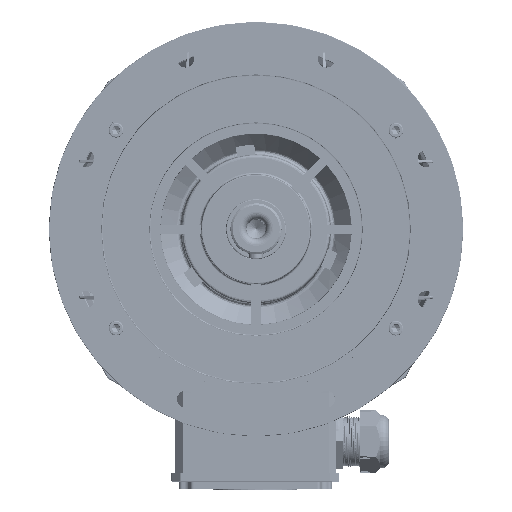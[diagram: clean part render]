
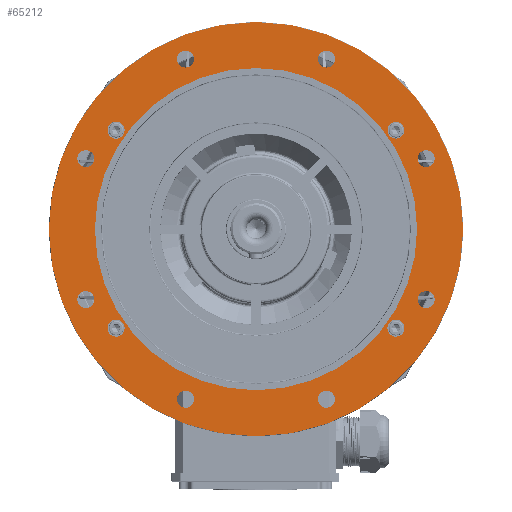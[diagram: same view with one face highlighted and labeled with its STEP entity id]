
A CAD part, top view. The second image highlights one B-rep face of the part: STEP entity #65212.
In plain terms, the highlighted planar face has unit normal (0, 0, 1).
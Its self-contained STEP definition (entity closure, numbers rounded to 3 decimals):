
#56458=PLANE('',#216735);
#65212=ADVANCED_FACE('',(#72682,#72683,#72684,#72685,#72686,#72687,#72688,
#72689,#72690,#72691,#72692,#72693,#72694,#72695),#56458,.F.);
#72682=FACE_BOUND('',#82925,.T.);
#72683=FACE_BOUND('',#82926,.T.);
#72684=FACE_BOUND('',#82927,.T.);
#72685=FACE_BOUND('',#82928,.T.);
#72686=FACE_BOUND('',#82929,.T.);
#72687=FACE_BOUND('',#82930,.T.);
#72688=FACE_BOUND('',#82931,.T.);
#72689=FACE_BOUND('',#82932,.T.);
#72690=FACE_BOUND('',#82933,.T.);
#72691=FACE_BOUND('',#82934,.T.);
#72692=FACE_BOUND('',#82935,.T.);
#72693=FACE_BOUND('',#82936,.T.);
#72694=FACE_BOUND('',#82937,.T.);
#72695=FACE_BOUND('',#82938,.T.);
#82925=EDGE_LOOP('',(#132999));
#82926=EDGE_LOOP('',(#133000));
#82927=EDGE_LOOP('',(#133001));
#82928=EDGE_LOOP('',(#133002));
#82929=EDGE_LOOP('',(#133003));
#82930=EDGE_LOOP('',(#133004));
#82931=EDGE_LOOP('',(#133005));
#82932=EDGE_LOOP('',(#133006));
#82933=EDGE_LOOP('',(#133007));
#82934=EDGE_LOOP('',(#133008));
#82935=EDGE_LOOP('',(#133009));
#82936=EDGE_LOOP('',(#133010));
#82937=EDGE_LOOP('',(#133011));
#82938=EDGE_LOOP('',(#133012));
#132999=ORIENTED_EDGE('',*,*,#190752,.T.);
#133000=ORIENTED_EDGE('',*,*,#191208,.T.);
#133001=ORIENTED_EDGE('',*,*,#191204,.F.);
#133002=ORIENTED_EDGE('',*,*,#190744,.T.);
#133003=ORIENTED_EDGE('',*,*,#191206,.F.);
#133004=ORIENTED_EDGE('',*,*,#191198,.T.);
#133005=ORIENTED_EDGE('',*,*,#191214,.T.);
#133006=ORIENTED_EDGE('',*,*,#191196,.T.);
#133007=ORIENTED_EDGE('',*,*,#191200,.F.);
#133008=ORIENTED_EDGE('',*,*,#190748,.T.);
#133009=ORIENTED_EDGE('',*,*,#191202,.F.);
#133010=ORIENTED_EDGE('',*,*,#191210,.T.);
#133011=ORIENTED_EDGE('',*,*,#190914,.F.);
#133012=ORIENTED_EDGE('',*,*,#191213,.F.);
#163081=VERTEX_POINT('',#410518);
#163085=VERTEX_POINT('',#410529);
#163089=VERTEX_POINT('',#410540);
#163202=VERTEX_POINT('',#412030);
#163396=VERTEX_POINT('',#413535);
#163398=VERTEX_POINT('',#413540);
#163400=VERTEX_POINT('',#413545);
#163402=VERTEX_POINT('',#413550);
#163404=VERTEX_POINT('',#413555);
#163406=VERTEX_POINT('',#413560);
#163408=VERTEX_POINT('',#413565);
#163410=VERTEX_POINT('',#413570);
#163413=VERTEX_POINT('',#413599);
#163414=VERTEX_POINT('',#413602);
#190744=EDGE_CURVE('',#163081,#163081,#203005,.T.);
#190748=EDGE_CURVE('',#163085,#163085,#203009,.T.);
#190752=EDGE_CURVE('',#163089,#163089,#203013,.T.);
#190914=EDGE_CURVE('',#163202,#163202,#203067,.T.);
#191196=EDGE_CURVE('',#163396,#163396,#203171,.T.);
#191198=EDGE_CURVE('',#163398,#163398,#203173,.T.);
#191200=EDGE_CURVE('',#163400,#163400,#203175,.T.);
#191202=EDGE_CURVE('',#163402,#163402,#203177,.T.);
#191204=EDGE_CURVE('',#163404,#163404,#203179,.T.);
#191206=EDGE_CURVE('',#163406,#163406,#203181,.T.);
#191208=EDGE_CURVE('',#163408,#163408,#203183,.T.);
#191210=EDGE_CURVE('',#163410,#163410,#203185,.T.);
#191213=EDGE_CURVE('',#163413,#163413,#203188,.T.);
#191214=EDGE_CURVE('',#163414,#163414,#203189,.T.);
#203005=CIRCLE('',#216395,9.25);
#203009=CIRCLE('',#216402,9.25);
#203013=CIRCLE('',#216409,9.25);
#203067=CIRCLE('',#216503,175.);
#203171=CIRCLE('',#216706,9.25);
#203173=CIRCLE('',#216709,9.25);
#203175=CIRCLE('',#216712,9.25);
#203177=CIRCLE('',#216715,9.25);
#203179=CIRCLE('',#216718,9.25);
#203181=CIRCLE('',#216721,9.25);
#203183=CIRCLE('',#216724,9.25);
#203185=CIRCLE('',#216727,9.25);
#203188=CIRCLE('',#216732,225.);
#203189=CIRCLE('',#216734,9.125);
#216395=AXIS2_PLACEMENT_3D('',#410517,#252206,#252207);
#216402=AXIS2_PLACEMENT_3D('',#410528,#252220,#252221);
#216409=AXIS2_PLACEMENT_3D('',#410539,#252234,#252235);
#216503=AXIS2_PLACEMENT_3D('',#412029,#252474,#252475);
#216706=AXIS2_PLACEMENT_3D('',#413534,#253020,#253021);
#216709=AXIS2_PLACEMENT_3D('',#413539,#253026,#253027);
#216712=AXIS2_PLACEMENT_3D('',#413544,#253032,#253033);
#216715=AXIS2_PLACEMENT_3D('',#413549,#253038,#253039);
#216718=AXIS2_PLACEMENT_3D('',#413554,#253044,#253045);
#216721=AXIS2_PLACEMENT_3D('',#413559,#253050,#253051);
#216724=AXIS2_PLACEMENT_3D('',#413564,#253056,#253057);
#216727=AXIS2_PLACEMENT_3D('',#413569,#253062,#253063);
#216732=AXIS2_PLACEMENT_3D('',#413598,#253072,#253073);
#216734=AXIS2_PLACEMENT_3D('',#413601,#253076,#253077);
#216735=AXIS2_PLACEMENT_3D('',#413603,#253078,#253079);
#252206=DIRECTION('',(0.,0.,-1.));
#252207=DIRECTION('',(0.,-1.,0.));
#252220=DIRECTION('',(0.,0.,-1.));
#252221=DIRECTION('',(0.,-1.,0.));
#252234=DIRECTION('',(0.,0.,-1.));
#252235=DIRECTION('',(0.,-1.,0.));
#252474=DIRECTION('',(0.,0.,1.));
#252475=DIRECTION('',(0.,-1.,0.));
#253020=DIRECTION('',(0.,0.,-1.));
#253021=DIRECTION('',(1.,0.,0.));
#253026=DIRECTION('',(0.,0.,-1.));
#253027=DIRECTION('',(1.,0.,0.));
#253032=DIRECTION('',(0.,0.,1.));
#253033=DIRECTION('',(1.,0.,0.));
#253038=DIRECTION('',(0.,0.,1.));
#253039=DIRECTION('',(1.,0.,0.));
#253044=DIRECTION('',(0.,0.,1.));
#253045=DIRECTION('',(1.,0.,0.));
#253050=DIRECTION('',(0.,0.,1.));
#253051=DIRECTION('',(1.,0.,0.));
#253056=DIRECTION('',(0.,0.,-1.));
#253057=DIRECTION('',(1.,0.,0.));
#253062=DIRECTION('',(0.,0.,-1.));
#253063=DIRECTION('',(1.,0.,0.));
#253072=DIRECTION('',(0.,0.,-1.));
#253073=DIRECTION('',(0.,-1.,0.));
#253076=DIRECTION('',(0.,0.,-1.));
#253077=DIRECTION('',(0.,-1.,0.));
#253078=DIRECTION('',(0.,0.,-1.));
#253079=DIRECTION('',(0.,-1.,0.));
#410517=CARTESIAN_POINT('',(-151.896,107.648,45.));
#410518=CARTESIAN_POINT('',(-151.896,98.398,45.));
#410528=CARTESIAN_POINT('',(152.104,-107.352,45.));
#410529=CARTESIAN_POINT('',(152.104,-116.602,45.));
#410539=CARTESIAN_POINT('',(-151.896,-107.352,45.));
#410540=CARTESIAN_POINT('',(-151.896,-116.602,45.));
#412029=CARTESIAN_POINT('',(0.104,0.148,45.));
#412030=CARTESIAN_POINT('',(0.104,-174.852,45.));
#413534=CARTESIAN_POINT('',(184.88,76.685,45.));
#413535=CARTESIAN_POINT('',(194.13,76.685,45.));
#413539=CARTESIAN_POINT('',(76.641,184.924,45.));
#413540=CARTESIAN_POINT('',(85.891,184.924,45.));
#413544=CARTESIAN_POINT('',(184.88,-76.388,45.));
#413545=CARTESIAN_POINT('',(194.13,-76.388,45.));
#413549=CARTESIAN_POINT('',(76.641,-184.627,45.));
#413550=CARTESIAN_POINT('',(85.891,-184.627,45.));
#413554=CARTESIAN_POINT('',(-184.672,76.685,45.));
#413555=CARTESIAN_POINT('',(-175.422,76.685,45.));
#413559=CARTESIAN_POINT('',(-76.433,184.924,45.));
#413560=CARTESIAN_POINT('',(-67.183,184.924,45.));
#413564=CARTESIAN_POINT('',(-184.672,-76.388,45.));
#413565=CARTESIAN_POINT('',(-175.422,-76.388,45.));
#413569=CARTESIAN_POINT('',(-76.433,-184.627,45.));
#413570=CARTESIAN_POINT('',(-67.183,-184.627,45.));
#413598=CARTESIAN_POINT('',(0.104,0.148,45.));
#413599=CARTESIAN_POINT('',(0.104,-224.852,45.));
#413601=CARTESIAN_POINT('',(152.104,107.648,45.));
#413602=CARTESIAN_POINT('',(152.104,98.523,45.));
#413603=CARTESIAN_POINT('',(245.165,247.748,45.));
